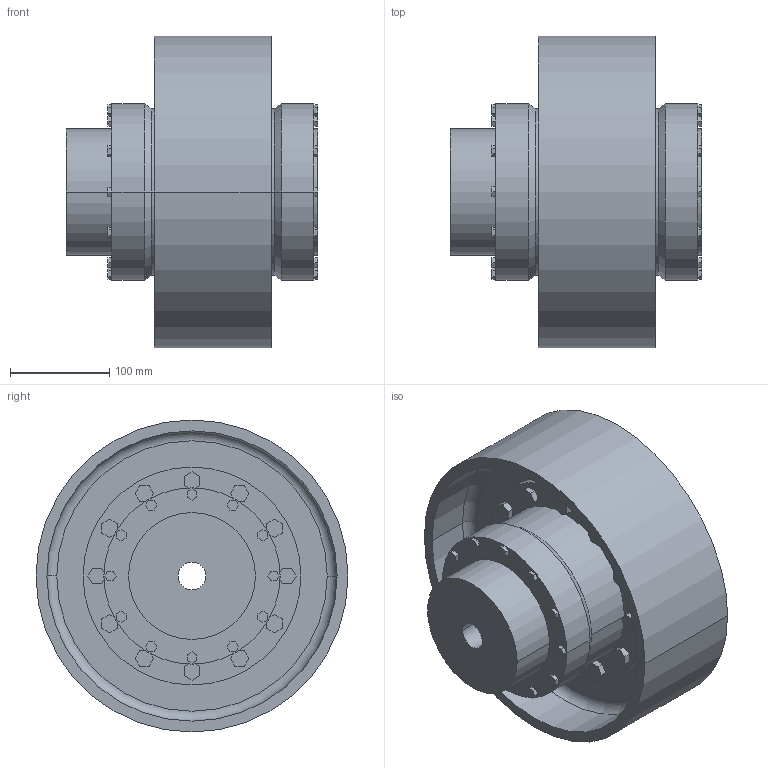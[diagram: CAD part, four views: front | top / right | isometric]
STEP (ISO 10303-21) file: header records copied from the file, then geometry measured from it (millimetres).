
FILE_DESCRIPTION((''),'2;1');
FILE_NAME('A19734300-0_ASM','2019-05-23T',('AB_Roschiwal'),('RENK AG'),'PRO/ENGINEER BY PARAMETRIC TECHNOLOGY CORPORATION, 2015440','PRO/ENGINEER BY PARAMETRIC TECHNOLOGY CORPORATION, 2015440','');
FILE_SCHEMA(('CONFIG_CONTROL_DESIGN'));
Length unit declared in the file: millimetre
Products named in the file (4): SBKD80_GEHAEUSE; SBKD80_NABE; SBKD80_BREMSSCHEIBE; A19734300-0_ASM
Assembly tree (4 placements, depth 2):
  A19734300-0_ASM
    SBKD80_GEHAEUSE
    SBKD80_NABE  x2
    SBKD80_BREMSSCHEIBE
Bounding box: 254 x 315 x 315 mm (x, y, z)
Volume: 5948229.5 mm3; surface area: 822050.5 mm2
Topology: 4 solids, 4 shells, 474 faces, 1164 edges, 772 vertices
Faces by surface type: plane 370, cylinder 96, cone 4, torus 4
Entity records: 13708 total; most frequent: CARTESIAN_POINT 2366, ORIENTED_EDGE 2280, DIRECTION 2264, EDGE_CURVE 1140, VECTOR 956, LINE 956, VERTEX_POINT 756, AXIS2_PLACEMENT_3D 654
